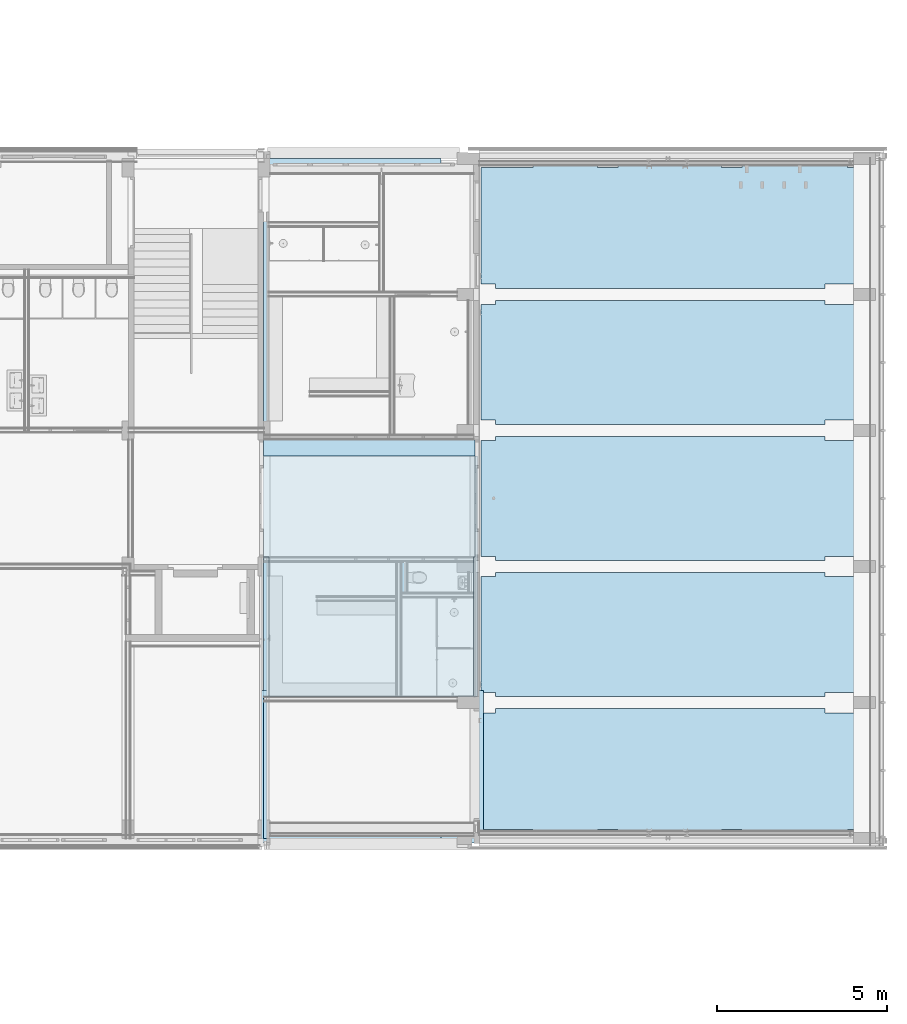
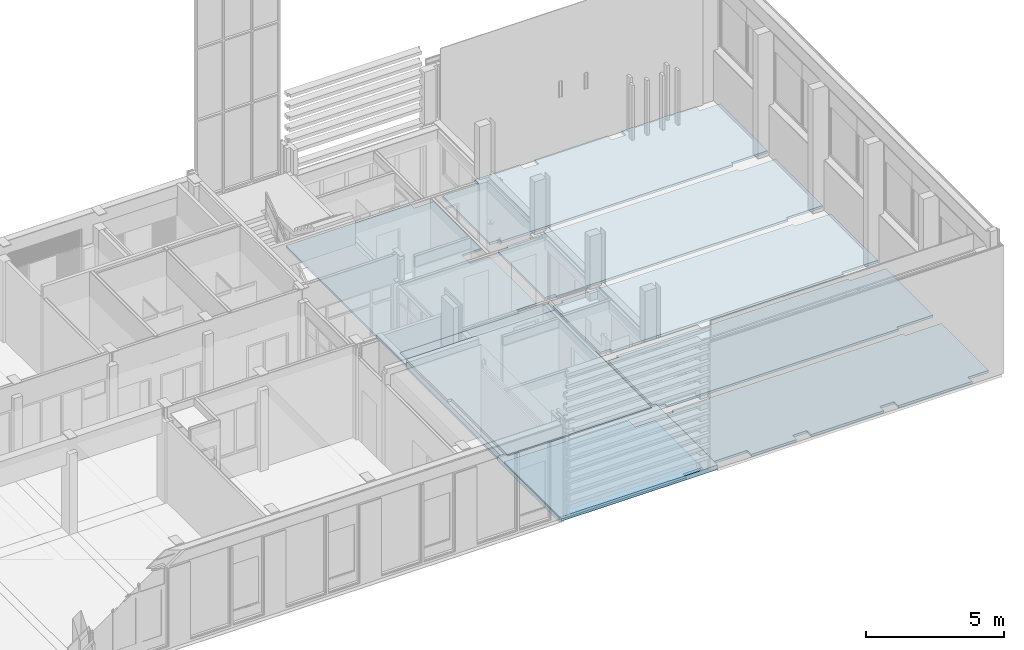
# One storey, part 17 of 109: 8 slabs.
"""IFC2X3 building model written with IfcOpenShell, lengths in millimetres."""

from ifc_helpers import new_model, entity, si_unit, converted_unit, derived_unit, money_unit, direction, frame, origin_with_axes, place, context, subcontext, project, spatial, faceted_brep, material, type_object, element, save


model = new_model("IFC2X3")

# Units and contexts
model_context = context("Model", 3, precision=0.01, world=origin_with_axes(), true_north=direction((0.0, 1.0)))
body_context = subcontext(model_context, "Body", "Model", "MODEL_VIEW")
ifc_project = project(units=[si_unit("LENGTHUNIT", "METRE", prefix="MILLI"), si_unit("AREAUNIT", "SQUARE_METRE"), si_unit("VOLUMEUNIT", "CUBIC_METRE"), converted_unit("PLANEANGLEUNIT", "DEGREE", entity("IfcPlaneAngleMeasure", 0.0174532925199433), si_unit("PLANEANGLEUNIT", "RADIAN"), dimensions=[0, 0, 0, 0, 0, 0, 0]), money_unit("EUR"), converted_unit("TIMEUNIT", "Year", entity("IfcTimeMeasure", 31557600.0), si_unit("TIMEUNIT", "SECOND"), dimensions=[0, 0, 1, 0, 0, 0, 0]), si_unit("MASSUNIT", "GRAM", prefix="KILO"), si_unit("THERMODYNAMICTEMPERATUREUNIT", "DEGREE_CELSIUS"), si_unit("LUMINOUSINTENSITYUNIT", "LUMEN"), si_unit("ENERGYUNIT", "JOULE", prefix="MEGA"), derived_unit("THERMALCONDUCTANCEUNIT", [(si_unit("POWERUNIT", "WATT"), 1), (si_unit("LENGTHUNIT", "METRE"), -1), (si_unit("THERMODYNAMICTEMPERATUREUNIT", "KELVIN"), -1)]), derived_unit("SPECIFICHEATCAPACITYUNIT", [(si_unit("ENERGYUNIT", "JOULE"), 1), (si_unit("MASSUNIT", "GRAM", prefix="KILO"), -1), (si_unit("THERMODYNAMICTEMPERATUREUNIT", "KELVIN"), -1)]), derived_unit("MASSDENSITYUNIT", [(si_unit("MASSUNIT", "GRAM", prefix="KILO"), 1), (si_unit("VOLUMEUNIT", "CUBIC_METRE"), -1)])], contexts=[model_context])

# Site, building, storey
site_placement = place(None, origin_with_axes())
site = spatial("IfcSite", under=ifc_project, at=site_placement, Name="<site naam>", CompositionType="ELEMENT")
building_placement = place(site_placement, origin_with_axes())
building = spatial("IfcBuilding", under=site, at=building_placement, Name="<Naam gebouw>", CompositionType="ELEMENT")
storey_placement = place(building_placement, origin_with_axes())
storey = spatial("IfcBuildingStorey", under=building, at=storey_placement, Name="00 Begane grond", CompositionType="ELEMENT", Elevation=0.0)

# Slabs
ifc_material_1 = material(Name="beton_gewapend_vloer C")
slab_type_1 = type_object("IfcSlabType", Name="beton_gewapend_vloer C  250", PredefinedType="NOTDEFINED")
slab_1_placement = place(storey_placement, frame((51978.99993868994, 4175.000000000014, -110.0000000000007), z_axis=(0.0, 0.0, 1.0), x_axis=(1.0, 0.0, 0.0)))
element("IfcSlab", 1, at=slab_1_placement, inside=storey, type_object=slab_type_1, material=ifc_material_1, Name="23_Vloer_beton_gewapend_vloer", PredefinedType="NOTDEFINED", context=body_context, shape_type="Brep", body=[
    faceted_brep([(0.0, 0.0, 0.0), (0.0, 0.0, -250.0), (6288.783032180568, 0.0, -250.0), (6288.783032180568, 0.0, 0.0), (0.0, 7075.000000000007, 0.0), (0.0, 7075.000000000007, -250.0), (6288.783032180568, 7075.000000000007, -250.0), (6288.783032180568, 7075.000000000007, 0.0)], [[[0, 1, 2, 3]], [[4, 5, 1, 0]], [[2, 1, 5, 6]], [[3, 2, 6, 7]], [[4, 0, 3, 7]], [[7, 6, 5, 4]]]),
])
slab_type_2 = type_object("IfcSlabType", Name="beton_gewapend_vloer C  200", PredefinedType="NOTDEFINED")
slab_2_placement = place(storey_placement, frame((51803.9545733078, -124.9999999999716, -49.99999999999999), z_axis=(0.0, 0.0, 1.0), x_axis=(1.0, 0.0, 0.0)))
element("IfcSlab", 2, at=slab_2_placement, inside=storey, type_object=slab_type_2, material=ifc_material_1, Name="23_Vloer_beton_gewapend_vloer", PredefinedType="NOTDEFINED", context=body_context, shape_type="Brep", body=[
    faceted_brep([(0.0, 0.0, 0.0), (0.0, 0.0, -200.0), (6638.873762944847, 0.0, -200.0), (6638.873762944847, 0.0, 0.0), (0.0, 4475.045365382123, 0.0), (0.0, 4475.045365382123, -200.0), (6638.873762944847, 4475.045365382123, -200.0), (6638.873762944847, 4475.045365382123, 0.0)], [[[0, 1, 2, 3]], [[4, 5, 1, 0]], [[2, 1, 5, 6]], [[3, 2, 6, 7]], [[4, 0, 3, 7]], [[7, 6, 5, 4]]]),
])
ifc_material_2 = material(Name="ALG - ISOLATIE")
slab_type_3 = type_object("IfcSlabType", Name="ALG - ISOLATIE 100", PredefinedType="NOTDEFINED")
slab_3_placement = place(storey_placement, frame((70010.0, -34.99999999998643, -150.0), z_axis=(0.0, 0.0, 1.0), x_axis=(1.0, 0.0, 0.0)))
element("IfcSlab", 3, at=slab_3_placement, inside=storey, type_object=slab_type_3, material=ifc_material_2, Name="23_Vloer_ALG", PredefinedType="NOTDEFINED", context=body_context, shape_type="Brep", body=[
    faceted_brep([(0.0, 7735.000000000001, -100.0), (0.0, 7735.000000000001, 0.0), (0.0, 4335.000000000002, 0.0), (0.0, 4335.000000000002, -100.0), (-1519.999999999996, 7735.000000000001, 0.0), (-1519.999999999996, 7735.000000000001, -100.0), (-1519.999999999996, 7860.000000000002, 0.0), (-11209.99999999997, 7860.000000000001, 0.0), (-11209.99999999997, 7735.000000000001, 0.0), (-11634.99999999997, 7735.000000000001, 0.0), (-11634.99999999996, 0.0, 0.0), (-11567.17166374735, 0.0, 0.0), (-11567.17166374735, 300.0000000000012, 0.0), (-10109.99999999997, 300.0000000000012, 0.0), (-10109.99999999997, 0.0, 0.0), (-8209.999999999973, 0.0, 0.0), (-8209.999999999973, 300.0000000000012, 0.0), (-7609.999999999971, 299.9999999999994, 0.0), (-7609.999999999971, 0.0, 0.0), (-4559.999999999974, 0.0, 0.0), (-4559.999999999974, 300.0000000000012, 0.0), (-3959.999999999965, 300.0000000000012, 0.0), (-3959.999999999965, 0.0, 0.0), (-859.999999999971, 0.0, 0.0), (-859.999999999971, 300.0000000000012, 0.0), (0.0, 300.0000000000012, 0.0), (0.0, 3735.000000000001, 0.0), (-1519.999999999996, 3735.000000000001, 0.0), (-1519.999999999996, 3860.000000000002, 0.0), (-11209.99999999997, 3860.000000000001, 0.0), (-11209.99999999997, 3735.000000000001, 0.0), (-11567.17166374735, 3735.0, 0.0), (-11567.17166374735, 4335.000000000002, 0.0), (-11209.99999999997, 4335.000000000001, 0.0), (-11209.99999999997, 4210.000000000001, 0.0), (-1519.999999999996, 4210.000000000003, 0.0), (-1519.999999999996, 4335.000000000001, 0.0), (-1519.999999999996, 4335.000000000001, -100.0), (-1519.999999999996, 4210.000000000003, -100.0), (-11209.99999999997, 4210.000000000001, -100.0), (-11209.99999999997, 4335.000000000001, -100.0), (-11567.17166374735, 4335.000000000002, -100.0), (-11567.17166374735, 3735.0, -100.0), (-11209.99999999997, 3735.000000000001, -100.0), (-11209.99999999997, 3860.0, -100.0), (-1519.999999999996, 3860.000000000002, -100.0), (-1519.999999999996, 3735.000000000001, -100.0), (0.0, 3735.000000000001, -100.0), (0.0, 300.0000000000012, -100.0), (-859.999999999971, 300.0000000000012, -100.0), (-859.999999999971, 0.0, -100.0), (-3959.999999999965, 0.0, -100.0), (-3959.999999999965, 300.0000000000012, -100.0), (-4559.999999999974, 300.0000000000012, -100.0), (-4559.999999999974, 0.0, -100.0), (-7609.999999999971, 0.0, -100.0), (-7609.999999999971, 299.9999999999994, -100.0), (-8209.999999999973, 300.0000000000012, -100.0), (-8209.999999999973, 0.0, -100.0), (-10109.99999999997, 0.0, -100.0), (-10109.99999999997, 300.0000000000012, -100.0), (-11567.17166374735, 300.0000000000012, -100.0), (-11567.17166374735, 0.0, -100.0), (-11634.99999999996, 0.0, -100.0), (-11634.99999999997, 7735.000000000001, -100.0), (-11209.99999999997, 7735.000000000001, -100.0), (-11209.99999999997, 7860.000000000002, -100.0), (-1519.999999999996, 7860.000000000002, -100.0)], [[[0, 1, 2, 3]], [[4, 1, 0, 5]], [[4, 6, 7, 8, 9, 10, 11, 12, 13, 14, 15, 16, 17, 18, 19, 20, 21, 22, 23, 24, 25, 26, 27, 28, 29, 30, 31, 32, 33, 34, 35, 36, 2, 1]], [[36, 37, 3, 2]], [[5, 0, 3, 37, 38, 39, 40, 41, 42, 43, 44, 45, 46, 47, 48, 49, 50, 51, 52, 53, 54, 55, 56, 57, 58, 59, 60, 61, 62, 63, 64, 65, 66, 67]], [[67, 6, 4, 5]], [[6, 67, 66, 7]], [[8, 7, 66, 65]], [[65, 64, 9, 8]], [[63, 10, 9, 64]], [[63, 62, 11, 10]], [[61, 12, 11, 62]], [[60, 13, 12, 61]], [[59, 14, 13, 60]], [[15, 14, 59, 58]], [[15, 58, 57, 16]], [[16, 57, 56, 17]], [[17, 56, 55, 18]], [[18, 55, 54, 19]], [[54, 53, 20, 19]], [[53, 52, 21, 20]], [[52, 51, 22, 21]], [[51, 50, 23, 22]], [[49, 24, 23, 50]], [[49, 48, 25, 24]], [[26, 25, 48, 47]], [[47, 46, 27, 26]], [[27, 46, 45, 28]], [[44, 29, 28, 45]], [[44, 43, 30, 29]], [[31, 30, 43, 42]], [[32, 31, 42, 41]], [[33, 32, 41, 40]], [[34, 33, 40, 39]], [[34, 39, 38, 35]], [[38, 37, 36, 35]]]),
    faceted_brep([(-1519.999999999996, 8210.0, 0.0), (-1519.999999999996, 8335.0, 0.0), (0.0, 8335.0, 0.0), (0.0, 11735.0, 0.0), (-1519.999999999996, 11735.0, 0.0), (-1519.999999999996, 11860.0, 0.0), (-11209.99999999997, 11860.0, 0.0), (-11209.99999999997, 11735.0, 0.0), (-11634.99999999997, 11735.0, 0.0), (-11634.99999999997, 8335.0, 0.0), (-11209.99999999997, 8335.0, 0.0), (-11209.99999999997, 8210.0, 0.0), (-1519.999999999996, 8210.0, -100.0), (-1519.999999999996, 8335.0, -100.0), (0.0, 8335.0, -100.0), (0.0, 11735.0, -100.0), (-1519.999999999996, 11735.0, -100.0), (-1519.999999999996, 11860.0, -100.0), (-11209.99999999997, 11860.0, -100.0), (-11209.99999999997, 11735.0, -100.0), (-11634.99999999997, 11735.0, -100.0), (-11634.99999999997, 8335.0, -100.0), (-11209.99999999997, 8335.0, -100.0), (-11209.99999999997, 8209.999999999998, -100.0)], [[[0, 1, 2, 3, 4, 5, 6, 7, 8, 9, 10, 11]], [[1, 0, 12, 13]], [[14, 2, 1, 13]], [[2, 14, 15, 3]], [[15, 16, 4, 3]], [[4, 16, 17, 5]], [[18, 6, 5, 17]], [[18, 19, 7, 6]], [[8, 7, 19, 20]], [[8, 20, 21, 9]], [[21, 22, 10, 9]], [[22, 23, 11, 10]], [[12, 0, 11, 23]], [[13, 12, 23, 22, 21, 20, 19, 18, 17, 16, 15, 14]]]),
    faceted_brep([(0.0, 16335.0, -100.0), (0.0, 19769.99999999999, -100.0), (0.0, 19770.0, 0.0), (0.0, 16335.0, 0.0), (-859.999999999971, 20070.0, -100.0), (-859.999999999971, 19770.0, -100.0), (-1519.999999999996, 16335.0, -100.0), (-1519.999999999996, 16210.0, -100.0), (-11209.99999999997, 16210.0, -100.0), (-11209.99999999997, 16335.0, -100.0), (-11634.99999999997, 16335.0, -100.0), (-11634.99999999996, 19770.0, -100.0), (-10109.99999999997, 19770.0, -100.0), (-10109.99999999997, 20069.99999999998, -100.0), (-8209.999999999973, 20070.0, -100.0), (-8209.999999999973, 19770.0, -100.0), (-7609.999999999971, 19770.0, -100.0), (-7609.999999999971, 20070.0, -100.0), (-4559.999999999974, 20070.0, -100.0), (-4559.999999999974, 19770.0, -100.0), (-3959.999999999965, 19770.0, -100.0), (-3959.999999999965, 20070.0, -100.0), (-859.999999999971, 19770.0, 0.0), (-859.999999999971, 20070.0, 0.0), (-3959.999999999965, 20070.0, 0.0), (-3959.999999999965, 19770.0, 0.0), (-4559.999999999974, 19770.0, 0.0), (-4559.999999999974, 20070.0, 0.0), (-7609.999999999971, 20070.0, 0.0), (-7609.999999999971, 19770.0, 0.0), (-8209.999999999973, 19770.0, 0.0), (-8209.999999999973, 20070.0, 0.0), (-10109.99999999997, 20069.99999999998, 0.0), (-10109.99999999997, 19770.0, 0.0), (-11634.99999999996, 19770.0, 0.0), (-11634.99999999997, 16335.0, 0.0), (-11209.99999999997, 16335.0, 0.0), (-11209.99999999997, 16210.0, 0.0), (-1519.999999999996, 16210.0, 0.0), (-1519.999999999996, 16335.0, 0.0)], [[[0, 1, 2, 3]], [[4, 5, 1, 0, 6, 7, 8, 9, 10, 11, 12, 13, 14, 15, 16, 17, 18, 19, 20, 21]], [[5, 22, 2, 1]], [[2, 22, 23, 24, 25, 26, 27, 28, 29, 30, 31, 32, 33, 34, 35, 36, 37, 38, 39, 3]], [[3, 39, 6, 0]], [[5, 4, 23, 22]], [[38, 7, 6, 39]], [[38, 37, 8, 7]], [[8, 37, 36, 9]], [[9, 36, 35, 10]], [[10, 35, 34, 11]], [[12, 11, 34, 33]], [[13, 12, 33, 32]], [[31, 14, 13, 32]], [[30, 15, 14, 31]], [[16, 15, 30, 29]], [[17, 16, 29, 28]], [[28, 27, 18, 17]], [[19, 18, 27, 26]], [[19, 26, 25, 20]], [[20, 25, 24, 21]], [[24, 23, 4, 21]]]),
    faceted_brep([(0.0, 12335.0, -100.0), (0.0, 15735.0, -100.0), (0.0, 15735.0, 0.0), (0.0, 12335.0, 0.0), (-1519.999999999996, 15860.0, -100.0), (-1519.999999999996, 15735.0, -100.0), (-1519.999999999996, 12335.0, -100.0), (-1519.999999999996, 12210.0, -100.0), (-11209.99999999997, 12210.0, -100.0), (-11209.99999999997, 12335.0, -100.0), (-11634.99999999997, 12335.0, -100.0), (-11634.99999999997, 15735.0, -100.0), (-11209.99999999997, 15735.0, -100.0), (-11209.99999999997, 15860.0, -100.0), (-1519.999999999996, 15735.0, 0.0), (-1519.999999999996, 15860.0, 0.0), (-11209.99999999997, 15860.0, 0.0), (-11209.99999999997, 15735.0, 0.0), (-11634.99999999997, 15735.0, 0.0), (-11634.99999999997, 12335.0, 0.0), (-11209.99999999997, 12335.0, 0.0), (-11209.99999999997, 12210.0, 0.0), (-1519.999999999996, 12210.0, 0.0), (-1519.999999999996, 12335.0, 0.0)], [[[0, 1, 2, 3]], [[4, 5, 1, 0, 6, 7, 8, 9, 10, 11, 12, 13]], [[5, 14, 2, 1]], [[2, 14, 15, 16, 17, 18, 19, 20, 21, 22, 23, 3]], [[0, 3, 23, 6]], [[5, 4, 15, 14]], [[23, 22, 7, 6]], [[7, 22, 21, 8]], [[9, 8, 21, 20]], [[10, 9, 20, 19]], [[11, 10, 19, 18]], [[17, 12, 11, 18]], [[12, 17, 16, 13]], [[16, 15, 4, 13]]]),
])
ifc_material_3 = material(Name="Zwevende dekvloer")
slab_type_4 = type_object("IfcSlabType", Name="Zwevende dekvloer 30", PredefinedType="NOTDEFINED")
slab_4_placement = place(storey_placement, frame((51978.99999667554, 11725.00000000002, 0.0), z_axis=(0.0, 0.0, 1.0), x_axis=(1.0, 0.0, 0.0)))
element("IfcSlab", 4, at=slab_4_placement, inside=storey, type_object=slab_type_4, material=ifc_material_3, Name="23_Vloer_Zwevende", PredefinedType="NOTDEFINED", context=body_context, shape_type="Brep", body=[
    faceted_brep([(0.0, 0.0, 0.0), (0.0, 0.0, -30.0), (0.0, -475.0000272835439, -30.0), (0.0, -475.0000272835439, 0.0), (6224.782757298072, 0.0, 0.0), (6224.782757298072, 0.0, -30.0), (6224.782757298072, -475.0000272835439, -30.0), (6224.782757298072, -475.0000272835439, 0.0)], [[[0, 1, 2, 3]], [[4, 5, 1, 0]], [[2, 1, 5, 6]], [[3, 2, 6, 7]], [[4, 0, 3, 7]], [[7, 6, 5, 4]]]),
])
slab_type_5 = type_object("IfcSlabType", Name="Zwevende dekvloer 110", PredefinedType="NOTDEFINED")
slab_5_placement = place(storey_placement, frame((51978.99995737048, 11250.00000000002, 0.0), z_axis=(0.0, 0.0, 1.0), x_axis=(1.0, 0.0, 0.0)))
element("IfcSlab", 5, at=slab_5_placement, inside=storey, type_object=slab_type_5, material=ifc_material_3, Name="23_Vloer_Zwevende", PredefinedType="NOTDEFINED", context=body_context, shape_type="Brep", body=[
    faceted_brep([(0.0001054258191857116, -2974.999969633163, 0.0), (0.0, 0.0, 0.0), (0.0, 0.0, -110.0000000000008), (0.0001054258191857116, -2974.999969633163, -110.0000000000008), (6224.782738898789, -2974.999969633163, 0.0), (6224.782738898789, 0.0, 0.0), (156.0000581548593, -2974.999969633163, 0.0), (155.9999473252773, -7075.000000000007, 0.0), (6178.782924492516, -7075.000000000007, 0.0), (6178.782924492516, -2974.999969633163, 0.0), (6224.782738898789, 0.0, -110.0000000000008), (156.0000581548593, -2974.999969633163, -110.0000000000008), (6224.782738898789, -2974.999969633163, -110.0000000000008), (6178.782924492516, -2974.999969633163, -110.0000000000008), (6178.782924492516, -7075.000000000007, -110.0000000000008), (155.9999473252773, -7075.000000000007, -110.0000000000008)], [[[0, 1, 2, 3]], [[4, 5, 1, 0, 6, 7, 8, 9]], [[1, 5, 10, 2]], [[11, 3, 2, 10, 12, 13, 14, 15]], [[6, 0, 3, 11]], [[5, 4, 12, 10]], [[7, 6, 11, 15]], [[8, 7, 15, 14]], [[9, 8, 14, 13]], [[4, 9, 13, 12]]]),
])
slab_type_6 = type_object("IfcSlabType", Name="ALG - ISOLATIE 85", PredefinedType="NOTDEFINED")
slab_6_placement = place(storey_placement, frame((51978.99993868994, 0.006598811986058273, -250.0), z_axis=(0.0, 0.0, 1.0), x_axis=(1.0, 0.0, 0.0)))
element("IfcSlab", 6, at=slab_6_placement, inside=storey, type_object=slab_type_6, material=ifc_material_2, Name="23_Vloer_ALG", PredefinedType="NOTDEFINED", context=body_context, shape_type="Brep", body=[
    faceted_brep([(6046.000061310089, 264.9934011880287, 0.0), (6046.000061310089, 3699.993401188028, 0.0), (5221.000061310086, 3699.993401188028, 0.0), (5221.000061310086, 4174.993401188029, 0.0), (0.0, 4174.993401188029, 0.0), (0.0, 0.0, 0.0), (5221.000061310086, 0.0, 0.0), (5221.000061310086, 264.9934011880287, 0.0), (6046.000061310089, 3699.993401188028, -85.00000000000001), (6046.000061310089, 264.9934011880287, -85.00000000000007), (5221.000061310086, 3699.993401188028, -85.00000000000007), (5221.000061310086, 4174.993401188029, -85.00000000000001), (0.0, 4174.993401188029, -85.00000000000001), (0.0, 0.0, -85.00000000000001), (5221.000061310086, 0.0, -85.00000000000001), (5221.000061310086, 264.9934011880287, -84.99999999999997)], [[[0, 1, 2, 3, 4, 5, 6, 7]], [[8, 1, 0, 9]], [[1, 8, 10, 2]], [[3, 2, 10, 11]], [[11, 12, 4, 3]], [[4, 12, 13, 5]], [[13, 14, 6, 5]], [[15, 7, 6, 14]], [[9, 0, 7, 15]], [[8, 9, 15, 14, 13, 12, 11, 10]]]),
])
slab_7_placement = place(storey_placement, frame((51978.99993868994, 4175.000000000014, -360.0000000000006), z_axis=(0.0, 0.0, 1.0), x_axis=(1.0, 0.0, 0.0)))
element("IfcSlab", 7, at=slab_7_placement, inside=storey, type_object=slab_type_6, material=ifc_material_2, Name="23_Vloer_ALG", PredefinedType="NOTDEFINED", context=body_context, shape_type="Brep", body=[
    faceted_brep([(6046.000061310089, 4125.000000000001, 0.0), (6046.000061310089, 7075.000000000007, 0.0), (0.0, 7075.000000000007, 0.0), (0.0, 0.0, 0.0), (5221.000061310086, 0.0, 0.0), (5221.000061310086, 125.0, 0.0), (6046.000061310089, 124.9999999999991, 0.0), (6046.000061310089, 3525.0, 0.0), (5221.000061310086, 3525.0, 0.0), (5221.000061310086, 4125.000000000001, 0.0), (6046.000061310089, 7075.000000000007, -85.00000000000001), (6046.000061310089, 4125.000000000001, -85.00000000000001), (0.0, 7075.000000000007, -85.00000000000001), (0.0, 0.0, -85.00000000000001), (5221.000061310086, 0.0, -85.00000000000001), (5221.000061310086, 125.0, -85.00000000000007), (6046.000061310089, 124.9999999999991, -85.00000000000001), (6046.000061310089, 3525.0, -85.00000000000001), (5221.000061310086, 3525.0, -84.99999999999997), (5221.000061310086, 4125.000000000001, -85.00000000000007)], [[[0, 1, 2, 3, 4, 5, 6, 7, 8, 9]], [[10, 1, 0, 11]], [[1, 10, 12, 2]], [[3, 2, 12, 13]], [[3, 13, 14, 4]], [[14, 15, 5, 4]], [[16, 6, 5, 15]], [[17, 7, 6, 16]], [[7, 17, 18, 8]], [[9, 8, 18, 19]], [[11, 0, 9, 19]], [[10, 11, 19, 18, 17, 16, 15, 14, 13, 12]]]),
])
slab_8_placement = place(storey_placement, frame((51978.99993868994, 11250.00000000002, -280.0), z_axis=(0.0, 0.0, 1.0), x_axis=(1.0, 0.0, 0.0)))
element("IfcSlab", 8, at=slab_8_placement, inside=storey, type_object=slab_type_6, material=ifc_material_2, Name="23_Vloer_ALG", PredefinedType="NOTDEFINED", context=body_context, shape_type="Brep", body=[
    faceted_brep([(5221.000061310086, 449.9999999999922, 0.0), (5221.000061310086, 1049.999999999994, 0.0), (6046.000061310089, 1049.999999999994, 0.0), (6046.000061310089, 4449.999999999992, 0.0), (5221.000061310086, 4449.999999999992, 0.0), (5221.000061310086, 5049.999999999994, 0.0), (6046.000061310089, 5049.999999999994, 0.0), (6046.000061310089, 8484.999999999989, 0.0), (5221.000061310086, 8484.999999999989, 0.0), (5221.000061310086, 8750.006525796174, 0.0), (0.0, 8750.006525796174, 0.0), (0.0, 0.0, 0.0), (6046.000061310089, 0.0, 0.0), (6046.000061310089, 449.9999999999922, 0.0), (5221.000061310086, 449.9999999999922, -84.99999999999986), (5221.000061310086, 1049.999999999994, -85.00000000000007), (6046.000061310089, 1049.999999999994, -84.99999999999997), (6046.000061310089, 4449.999999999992, -84.99999999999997), (5221.000061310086, 4449.999999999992, -84.99999999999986), (5221.000061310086, 5049.999999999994, -84.99999999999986), (6046.000061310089, 5049.999999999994, -84.99999999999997), (6046.000061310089, 8484.999999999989, -85.00000000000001), (5221.000061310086, 8484.999999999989, -84.99999999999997), (5221.000061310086, 8750.006525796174, -85.00000000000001), (0.0, 8750.006525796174, -85.00000000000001), (0.0, 0.0, -85.00000000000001), (6046.000061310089, 0.0, -85.00000000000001), (6046.000061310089, 449.9999999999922, -84.99999999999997)], [[[0, 1, 2, 3, 4, 5, 6, 7, 8, 9, 10, 11, 12, 13]], [[1, 0, 14, 15]], [[16, 2, 1, 15]], [[2, 16, 17, 3]], [[4, 3, 17, 18]], [[5, 4, 18, 19]], [[19, 20, 6, 5]], [[20, 21, 7, 6]], [[8, 7, 21, 22]], [[8, 22, 23, 9]], [[24, 10, 9, 23]], [[25, 11, 10, 24]], [[25, 26, 12, 11]], [[27, 13, 12, 26]], [[0, 13, 27, 14]], [[14, 27, 26, 25, 24, 23, 22, 21, 20, 19, 18, 17, 16, 15]]]),
])

save(model, "model.ifc")
